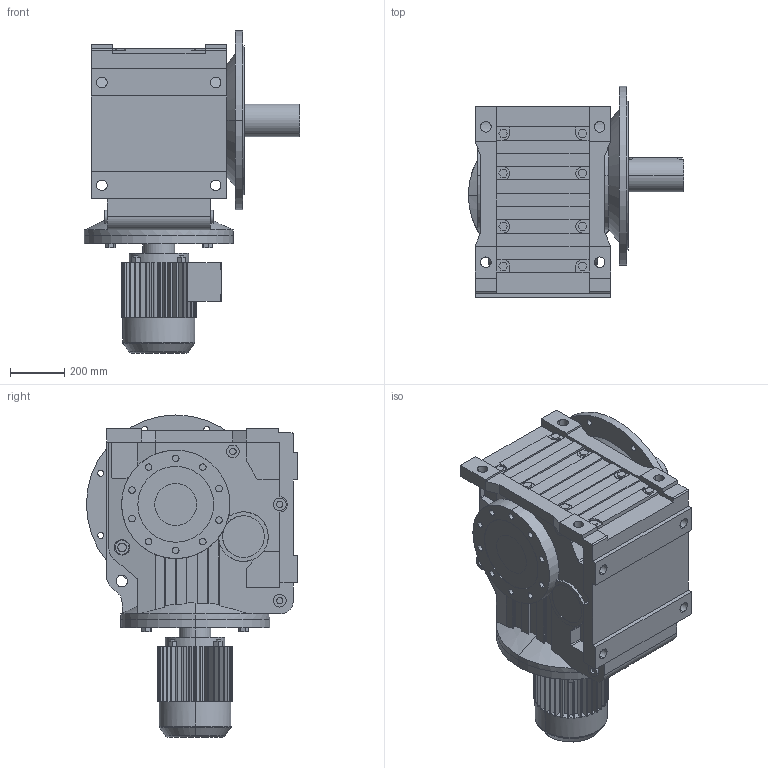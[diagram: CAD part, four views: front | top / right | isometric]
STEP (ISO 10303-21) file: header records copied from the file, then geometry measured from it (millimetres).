
FILE_DESCRIPTION(('Open CASCADE Model'),'2;1');
FILE_NAME('Open CASCADE Shape Model','2021-07-20T14:41:37',('Author'),( 'Open CASCADE'),'Open CASCADE STEP processor 6.3','Open CASCADE 6.3' ,'Unknown');
FILE_SCHEMA(('AUTOMOTIVE_DESIGN_CC2 { 1 2 10303 214 -1 1 5 4 }'));
Length unit declared in the file: millimetre
Products named in the file (5): 1_KF157DV160M-A; KA127‵157_157.step; 萇儂_550-DV160M-433-545-275-230.step; す瑩妗陑粣K_157.step; 楊擘K_157.step
Assembly tree (4 placements, depth 2):
  1_KF157DV160M-A
    KA127‵157_157.step
    萇儂_550-DV160M-433-545-275-230.step
    す瑩妗陑粣K_157.step
    楊擘K_157.step
Bounding box: 795 x 780 x 1189 mm (x, y, z)
Volume: 224627730.7 mm3; surface area: 5415789.9 mm2
Topology: 4 solids, 4 shells, 949 faces, 2472 edges, 1608 vertices
Faces by surface type: plane 604, cylinder 325, cone 16, torus 4
Entity records: 68418 total; most frequent: CARTESIAN_POINT 21828, DIRECTION 7890, ORIENTED_EDGE 4940, PCURVE 4940, DEFINITIONAL_REPRESENTATION 4940, LINE 4033, VECTOR 4033, EDGE_CURVE 2470
